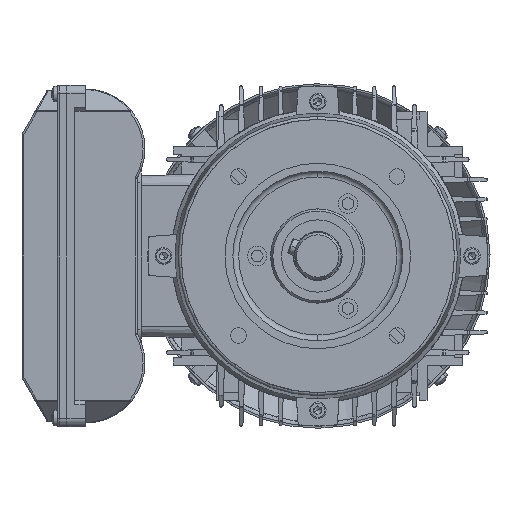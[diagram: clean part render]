
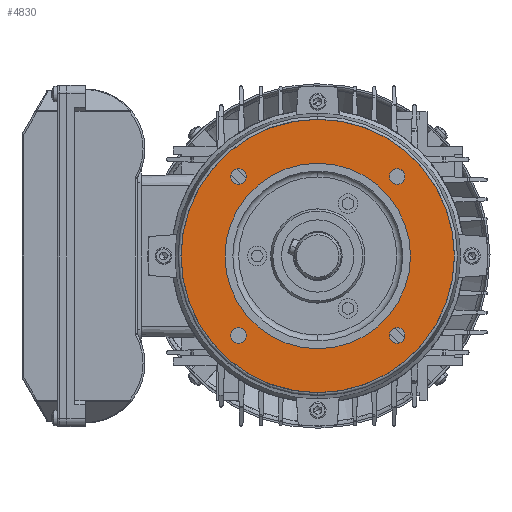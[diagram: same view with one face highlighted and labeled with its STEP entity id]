
A CAD part, left-side view. The second image highlights one B-rep face of the part: STEP entity #4830.
In plain terms, the highlighted planar face has unit normal (-1, 0, 0).
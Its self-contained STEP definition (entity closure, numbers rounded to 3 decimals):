
#2415 = CARTESIAN_POINT ( 'NONE',  ( 3., 0., 0. ) ) ;
#2800 = CARTESIAN_POINT ( 'NONE',  ( 3., 0., -70. ) ) ;
#3864 = AXIS2_PLACEMENT_3D ( 'NONE', #41510, #85950, #14526 ) ;
#4830 = ADVANCED_FACE ( 'NONE', ( #92519, #110503, #35848, #22035, #38642, #30348 ), #94794, .F. ) ;
#6405 = VERTEX_POINT ( 'NONE', #72655 ) ;
#6442 = CIRCLE ( 'NONE', #62838, 4. ) ;
#6772 = EDGE_LOOP ( 'NONE', ( #27442, #57567 ) ) ;
#6894 = AXIS2_PLACEMENT_3D ( 'NONE', #58083, #94039, #49556 ) ;
#7449 = DIRECTION ( 'NONE',  ( 0., 0., 1. ) ) ;
#7606 = AXIS2_PLACEMENT_3D ( 'NONE', #51637, #69427, #50467 ) ;
#7789 = DIRECTION ( 'NONE',  ( 0., 0., 1. ) ) ;
#8467 = DIRECTION ( 'NONE',  ( 0., 0., -1. ) ) ;
#9210 = CIRCLE ( 'NONE', #73041, 4. ) ;
#11704 = EDGE_CURVE ( 'NONE', #17191, #45104, #102062, .T. ) ;
#11944 = DIRECTION ( 'NONE',  ( 1., 0., 0. ) ) ;
#12348 = CARTESIAN_POINT ( 'NONE',  ( 3., -40.659, -40.659 ) ) ;
#12404 = VERTEX_POINT ( 'NONE', #29124 ) ;
#13706 = CIRCLE ( 'NONE', #29613, 4. ) ;
#13864 = VERTEX_POINT ( 'NONE', #2800 ) ;
#13956 = ORIENTED_EDGE ( 'NONE', *, *, #111914, .T. ) ;
#14475 = EDGE_LOOP ( 'NONE', ( #29870, #109320 ) ) ;
#14526 = DIRECTION ( 'NONE',  ( 0., 0., -1. ) ) ;
#16656 = EDGE_CURVE ( 'NONE', #80995, #47511, #43070, .T. ) ;
#16696 = ORIENTED_EDGE ( 'NONE', *, *, #103948, .T. ) ;
#16836 = EDGE_CURVE ( 'NONE', #6405, #103601, #27819, .T. ) ;
#17009 = CARTESIAN_POINT ( 'NONE',  ( 3., -40.659, 40.659 ) ) ;
#17191 = VERTEX_POINT ( 'NONE', #61531 ) ;
#20979 = DIRECTION ( 'NONE',  ( 0., 0., 1. ) ) ;
#22035 = FACE_BOUND ( 'NONE', #78319, .T. ) ;
#27442 = ORIENTED_EDGE ( 'NONE', *, *, #79911, .F. ) ;
#27819 = CIRCLE ( 'NONE', #3864, 4. ) ;
#28493 = CARTESIAN_POINT ( 'NONE',  ( 3., -40.659, 40.659 ) ) ;
#28533 = DIRECTION ( 'NONE',  ( 0., 0., 1. ) ) ;
#29124 = CARTESIAN_POINT ( 'NONE',  ( 3., 0., 70. ) ) ;
#29613 = AXIS2_PLACEMENT_3D ( 'NONE', #82229, #11944, #38189 ) ;
#29870 = ORIENTED_EDGE ( 'NONE', *, *, #73279, .T. ) ;
#30348 = FACE_OUTER_BOUND ( 'NONE', #81501, .T. ) ;
#30929 = VERTEX_POINT ( 'NONE', #80400 ) ;
#33252 = CIRCLE ( 'NONE', #61349, 47.5 ) ;
#34737 = ORIENTED_EDGE ( 'NONE', *, *, #34898, .T. ) ;
#34898 = EDGE_CURVE ( 'NONE', #50249, #30929, #6442, .T. ) ;
#35848 = FACE_BOUND ( 'NONE', #88161, .T. ) ;
#38189 = DIRECTION ( 'NONE',  ( 0., 0., -1. ) ) ;
#38642 = FACE_BOUND ( 'NONE', #6772, .T. ) ;
#39636 = CIRCLE ( 'NONE', #6894, 4. ) ;
#40790 = VERTEX_POINT ( 'NONE', #87336 ) ;
#41510 = CARTESIAN_POINT ( 'NONE',  ( 3., 40.659, 40.659 ) ) ;
#41796 = CARTESIAN_POINT ( 'NONE',  ( 3., 0., 0. ) ) ;
#43070 = CIRCLE ( 'NONE', #69688, 4. ) ;
#43692 = CIRCLE ( 'NONE', #7606, 4. ) ;
#43805 = CIRCLE ( 'NONE', #55602, 70. ) ;
#45104 = VERTEX_POINT ( 'NONE', #89487 ) ;
#46096 = CIRCLE ( 'NONE', #96102, 70. ) ;
#47433 = AXIS2_PLACEMENT_3D ( 'NONE', #17009, #52080, #8467 ) ;
#47511 = VERTEX_POINT ( 'NONE', #103962 ) ;
#49556 = DIRECTION ( 'NONE',  ( 0., 0., -1. ) ) ;
#50130 = EDGE_CURVE ( 'NONE', #40790, #105131, #9210, .T. ) ;
#50249 = VERTEX_POINT ( 'NONE', #102290 ) ;
#50467 = DIRECTION ( 'NONE',  ( 0., 0., -1. ) ) ;
#51637 = CARTESIAN_POINT ( 'NONE',  ( 3., 40.659, 40.659 ) ) ;
#51762 = CARTESIAN_POINT ( 'NONE',  ( 3., 0., 0. ) ) ;
#52080 = DIRECTION ( 'NONE',  ( 1., 0., 0. ) ) ;
#52232 = DIRECTION ( 'NONE',  ( 1., 0., 0. ) ) ;
#54308 = DIRECTION ( 'NONE',  ( 1., 0., 0. ) ) ;
#55602 = AXIS2_PLACEMENT_3D ( 'NONE', #51762, #79219, #7789 ) ;
#57567 = ORIENTED_EDGE ( 'NONE', *, *, #11704, .F. ) ;
#58083 = CARTESIAN_POINT ( 'NONE',  ( 3., 40.659, -40.659 ) ) ;
#60313 = DIRECTION ( 'NONE',  ( -1., 0., 0. ) ) ;
#60744 = CARTESIAN_POINT ( 'NONE',  ( 3., 47.5, 0. ) ) ;
#61349 = AXIS2_PLACEMENT_3D ( 'NONE', #41796, #60313, #7449 ) ;
#61531 = CARTESIAN_POINT ( 'NONE',  ( 3., 0., -47.5 ) ) ;
#62838 = AXIS2_PLACEMENT_3D ( 'NONE', #12348, #81836, #99670 ) ;
#64211 = DIRECTION ( 'NONE',  ( -1., 0., 0. ) ) ;
#64344 = DIRECTION ( 'NONE',  ( 0., 0., -1. ) ) ;
#66451 = AXIS2_PLACEMENT_3D ( 'NONE', #60744, #52232, #114130 ) ;
#67414 = CARTESIAN_POINT ( 'NONE',  ( 3., 40.659, 44.659 ) ) ;
#69427 = DIRECTION ( 'NONE',  ( 1., 0., 0. ) ) ;
#69688 = AXIS2_PLACEMENT_3D ( 'NONE', #28493, #54308, #64344 ) ;
#71862 = ORIENTED_EDGE ( 'NONE', *, *, #16836, .T. ) ;
#72166 = ORIENTED_EDGE ( 'NONE', *, *, #50130, .T. ) ;
#72655 = CARTESIAN_POINT ( 'NONE',  ( 3., 40.659, 36.659 ) ) ;
#73041 = AXIS2_PLACEMENT_3D ( 'NONE', #89587, #81806, #100005 ) ;
#73279 = EDGE_CURVE ( 'NONE', #47511, #80995, #79716, .T. ) ;
#77101 = CARTESIAN_POINT ( 'NONE',  ( 3., 40.659, -44.659 ) ) ;
#78319 = EDGE_LOOP ( 'NONE', ( #71862, #100475 ) ) ;
#78482 = ORIENTED_EDGE ( 'NONE', *, *, #113265, .T. ) ;
#79219 = DIRECTION ( 'NONE',  ( -1., 0., 0. ) ) ;
#79716 = CIRCLE ( 'NONE', #47433, 4. ) ;
#79911 = EDGE_CURVE ( 'NONE', #45104, #17191, #33252, .T. ) ;
#80400 = CARTESIAN_POINT ( 'NONE',  ( 3., -40.659, -36.659 ) ) ;
#80995 = VERTEX_POINT ( 'NONE', #83237 ) ;
#81501 = EDGE_LOOP ( 'NONE', ( #78482, #16696 ) ) ;
#81806 = DIRECTION ( 'NONE',  ( 1., 0., 0. ) ) ;
#81836 = DIRECTION ( 'NONE',  ( 1., 0., 0. ) ) ;
#82229 = CARTESIAN_POINT ( 'NONE',  ( 3., -40.659, -40.659 ) ) ;
#83237 = CARTESIAN_POINT ( 'NONE',  ( 3., -40.659, 44.659 ) ) ;
#85950 = DIRECTION ( 'NONE',  ( 1., 0., 0. ) ) ;
#87336 = CARTESIAN_POINT ( 'NONE',  ( 3., 40.659, -36.659 ) ) ;
#88161 = EDGE_LOOP ( 'NONE', ( #104570, #72166 ) ) ;
#89487 = CARTESIAN_POINT ( 'NONE',  ( 3., 0., 47.5 ) ) ;
#89587 = CARTESIAN_POINT ( 'NONE',  ( 3., 40.659, -40.659 ) ) ;
#90590 = EDGE_CURVE ( 'NONE', #105131, #40790, #39636, .T. ) ;
#92519 = FACE_BOUND ( 'NONE', #14475, .T. ) ;
#94039 = DIRECTION ( 'NONE',  ( 1., 0., 0. ) ) ;
#94794 = PLANE ( 'NONE',  #66451 ) ;
#96102 = AXIS2_PLACEMENT_3D ( 'NONE', #2415, #64211, #20979 ) ;
#99251 = CARTESIAN_POINT ( 'NONE',  ( 3., 0., 0. ) ) ;
#99670 = DIRECTION ( 'NONE',  ( 0., 0., -1. ) ) ;
#100005 = DIRECTION ( 'NONE',  ( 0., 0., -1. ) ) ;
#100475 = ORIENTED_EDGE ( 'NONE', *, *, #113767, .T. ) ;
#101435 = EDGE_LOOP ( 'NONE', ( #34737, #13956 ) ) ;
#102062 = CIRCLE ( 'NONE', #111496, 47.5 ) ;
#102290 = CARTESIAN_POINT ( 'NONE',  ( 3., -40.659, -44.659 ) ) ;
#103601 = VERTEX_POINT ( 'NONE', #67414 ) ;
#103948 = EDGE_CURVE ( 'NONE', #13864, #12404, #46096, .T. ) ;
#103962 = CARTESIAN_POINT ( 'NONE',  ( 3., -40.659, 36.659 ) ) ;
#104570 = ORIENTED_EDGE ( 'NONE', *, *, #90590, .T. ) ;
#105131 = VERTEX_POINT ( 'NONE', #77101 ) ;
#108097 = DIRECTION ( 'NONE',  ( -1., 0., 0. ) ) ;
#109320 = ORIENTED_EDGE ( 'NONE', *, *, #16656, .T. ) ;
#110503 = FACE_BOUND ( 'NONE', #101435, .T. ) ;
#111496 = AXIS2_PLACEMENT_3D ( 'NONE', #99251, #108097, #28533 ) ;
#111914 = EDGE_CURVE ( 'NONE', #30929, #50249, #13706, .T. ) ;
#113265 = EDGE_CURVE ( 'NONE', #12404, #13864, #43805, .T. ) ;
#113767 = EDGE_CURVE ( 'NONE', #103601, #6405, #43692, .T. ) ;
#114130 = DIRECTION ( 'NONE',  ( 0., 0., -1. ) ) ;
